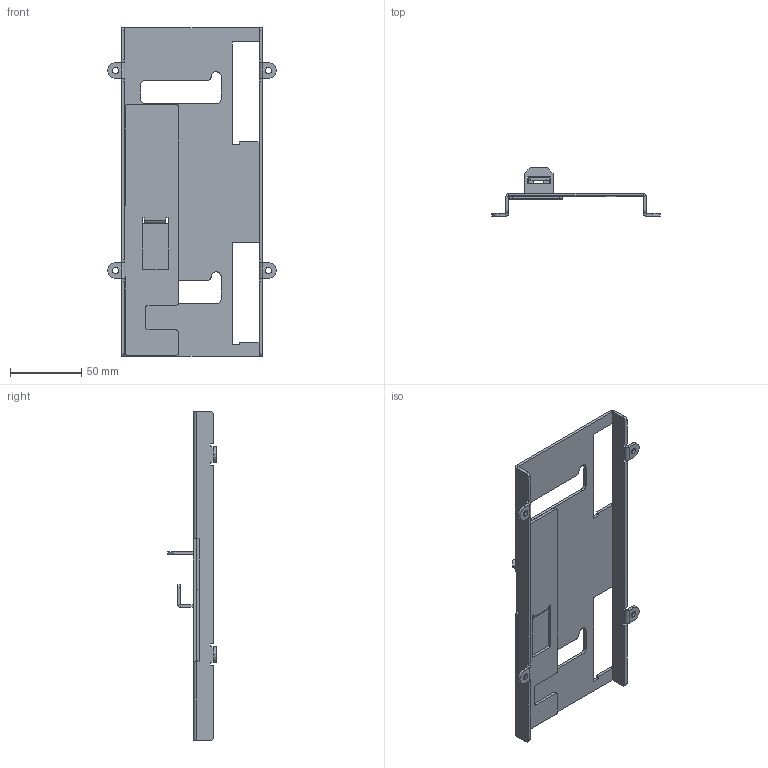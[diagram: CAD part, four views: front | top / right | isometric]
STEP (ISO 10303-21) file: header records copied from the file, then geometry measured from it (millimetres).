
FILE_DESCRIPTION (( 'STEP AP203' ), '1' );
FILE_NAME ('160薊坶.STEP', '2024-09-20T10:20:25', ( 'A' ), ( '' ), 'SwSTEP 2.0', 'SolidWorks 2018', '' );
FILE_SCHEMA (( 'CONFIG_CONTROL_DESIGN' ));
Length unit declared in the file: millimetre
Products named in the file (1): 160薊坶____
Bounding box: 118 x 34 x 230 mm (x, y, z)
Surface area: 61608.5 mm2 (no closed solid volume)
Topology: 0 solids, 2 shells, 217 faces, 605 edges, 378 vertices
Faces by surface type: plane 154, cylinder 63
Entity records: 6955 total; most frequent: CARTESIAN_POINT 1201, DIRECTION 1187, ORIENTED_EDGE 1170, EDGE_CURVE 605, VECTOR 459, LINE 459, VERTEX_POINT 378, AXIS2_PLACEMENT_3D 364
